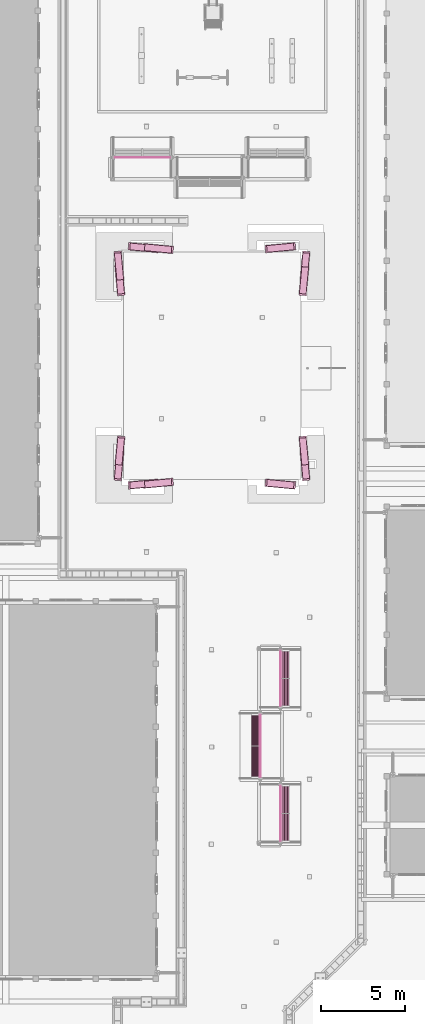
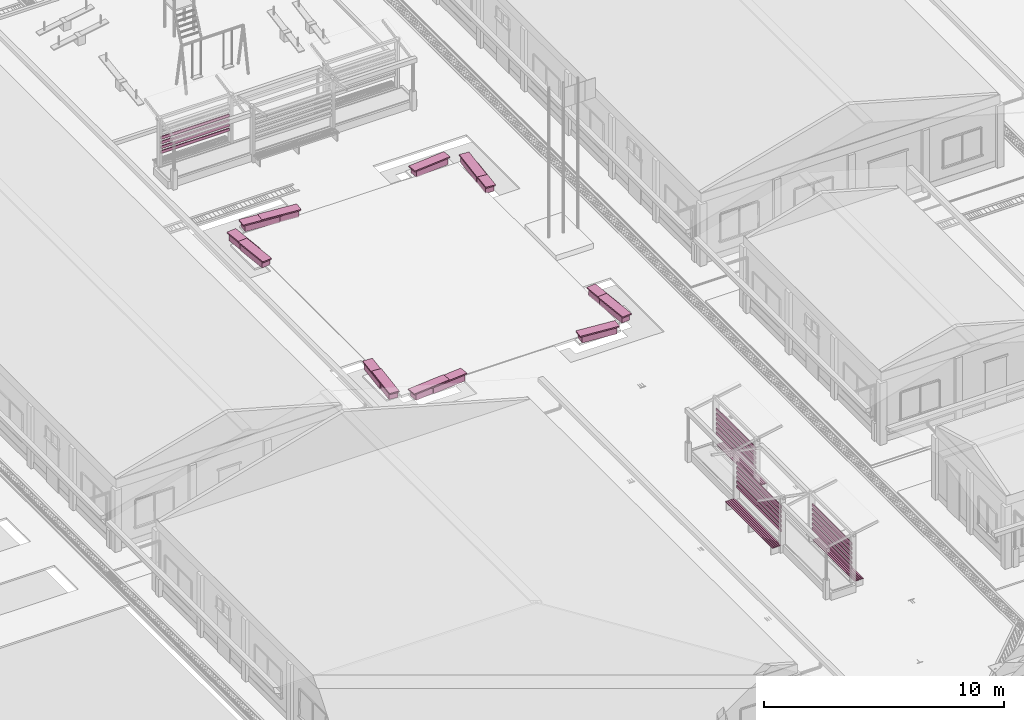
# One storey, part 135 of 151: 65 furnishings.
"""IFC2X3 building model written with IfcOpenShell, lengths in metres."""

from ifc_helpers import new_model, si_unit, origin, origin_with_axes, place, context, subcontext, project, spatial, faceted_brep, element, save


model = new_model("IFC2X3")

# Units and contexts
model_context = context("Model", 3, precision=1e-05, world=origin_with_axes())
body_context = subcontext(model_context, "Body", "Model", "MODEL_VIEW")
ifc_project = project(units=[si_unit("LENGTHUNIT", "METRE"), si_unit("AREAUNIT", "SQUARE_METRE"), si_unit("VOLUMEUNIT", "CUBIC_METRE"), si_unit("PLANEANGLEUNIT", "RADIAN")], contexts=[model_context])

# Site, building, storey
site_placement = place(None, origin_with_axes())
site = spatial("IfcSite", under=ifc_project, at=site_placement, Name="Predio Los Mangos - Morales, San Martín", CompositionType="ELEMENT")
building_placement = place(site_placement, origin())
building = spatial("IfcBuilding", under=site, at=building_placement, Name="Hogar de Refugio Temporal", CompositionType="ELEMENT")
storey_placement = place(building_placement, origin())
storey = spatial("IfcBuildingStorey", under=building, at=storey_placement, Name="NIVEL 1 (NPT +0.00)", CompositionType="ELEMENT", Elevation=0.0)

# Furnishings
furnishing_1_placement = place(storey_placement, origin())
element("IfcFurnishingElement", 1, at=furnishing_1_placement, inside=storey, Name="banca_base", ObjectType="Mobiliario exterior / juegos", context=body_context, shape_type="Brep", body=[
    faceted_brep([(29.1456, 69.3176, 0.07), (29.5438, 69.3553, 0.07), (29.6944, 67.7624, 0.07), (29.2962, 67.7247, 0.07), (29.1456, 69.3176, 0.37), (29.2962, 67.7247, 0.37), (29.6944, 67.7624, 0.37), (29.5438, 69.3553, 0.37)], [[[0, 1, 2, 3]], [[4, 5, 6, 7]], [[0, 3, 5, 4]], [[3, 2, 6, 5]], [[2, 1, 7, 6]], [[1, 0, 4, 7]]]),
])
furnishing_2_placement = place(storey_placement, origin())
element("IfcFurnishingElement", 2, at=furnishing_2_placement, inside=storey, Name="banca_asiento", ObjectType="Mobiliario exterior / juegos", context=body_context, shape_type="Brep", body=[
    faceted_brep([(29.1113, 69.4148, 0.39), (29.5593, 69.4572, 0.39), (29.7287, 67.6652, 0.39), (29.2807, 67.6228, 0.39), (29.1113, 69.4148, 0.45), (29.2807, 67.6228, 0.45), (29.7287, 67.6652, 0.45), (29.5593, 69.4572, 0.45)], [[[0, 1, 2, 3]], [[4, 5, 6, 7]], [[0, 3, 5, 4]], [[3, 2, 6, 5]], [[2, 1, 7, 6]], [[1, 0, 4, 7]]]),
])
furnishing_3_placement = place(storey_placement, origin())
element("IfcFurnishingElement", 3, at=furnishing_3_placement, inside=storey, Name="banca_base", ObjectType="Mobiliario exterior / juegos", context=body_context, shape_type="Brep", body=[
    faceted_brep([(31.6853, 69.7738, 0.07), (31.6476, 69.3756, 0.07), (30.0547, 69.5262, 0.07), (30.0924, 69.9244, 0.07), (31.6853, 69.7738, 0.37), (30.0924, 69.9244, 0.37), (30.0547, 69.5262, 0.37), (31.6476, 69.3756, 0.37)], [[[0, 1, 2, 3]], [[4, 5, 6, 7]], [[0, 3, 5, 4]], [[3, 2, 6, 5]], [[2, 1, 7, 6]], [[1, 0, 4, 7]]]),
])
furnishing_4_placement = place(storey_placement, origin())
element("IfcFurnishingElement", 4, at=furnishing_4_placement, inside=storey, Name="banca_asiento", ObjectType="Mobiliario exterior / juegos", context=body_context, shape_type="Brep", body=[
    faceted_brep([(31.7872, 69.7893, 0.39), (31.7448, 69.3413, 0.39), (29.9528, 69.5107, 0.39), (29.9952, 69.9587, 0.39), (31.7872, 69.7893, 0.45), (29.9952, 69.9587, 0.45), (29.9528, 69.5107, 0.45), (31.7448, 69.3413, 0.45)], [[[0, 1, 2, 3]], [[4, 5, 6, 7]], [[0, 3, 5, 4]], [[3, 2, 6, 5]], [[2, 1, 7, 6]], [[1, 0, 4, 7]]]),
])
furnishing_5_placement = place(storey_placement, origin())
element("IfcFurnishingElement", 5, at=furnishing_5_placement, inside=storey, Name="banca_base", ObjectType="Mobiliario exterior / juegos", context=body_context, shape_type="Brep", body=[
    faceted_brep([(40.5738, 67.7247, 0.07), (40.1756, 67.7624, 0.07), (40.3262, 69.3553, 0.07), (40.7244, 69.3176, 0.07), (40.5738, 67.7247, 0.37), (40.7244, 69.3176, 0.37), (40.3262, 69.3553, 0.37), (40.1756, 67.7624, 0.37)], [[[0, 1, 2, 3]], [[4, 5, 6, 7]], [[0, 3, 5, 4]], [[3, 2, 6, 5]], [[2, 1, 7, 6]], [[1, 0, 4, 7]]]),
])
furnishing_6_placement = place(storey_placement, origin())
element("IfcFurnishingElement", 6, at=furnishing_6_placement, inside=storey, Name="banca_asiento", ObjectType="Mobiliario exterior / juegos", context=body_context, shape_type="Brep", body=[
    faceted_brep([(40.5893, 67.6228, 0.39), (40.1413, 67.6652, 0.39), (40.3107, 69.4572, 0.39), (40.7587, 69.4148, 0.39), (40.5893, 67.6228, 0.45), (40.7587, 69.4148, 0.45), (40.3107, 69.4572, 0.45), (40.1413, 67.6652, 0.45)], [[[0, 1, 2, 3]], [[4, 5, 6, 7]], [[0, 3, 5, 4]], [[3, 2, 6, 5]], [[2, 1, 7, 6]], [[1, 0, 4, 7]]]),
])
furnishing_7_placement = place(storey_placement, origin())
element("IfcFurnishingElement", 7, at=furnishing_7_placement, inside=storey, Name="banca_base", ObjectType="Mobiliario exterior / juegos", context=body_context, shape_type="Brep", body=[
    faceted_brep([(39.7676, 69.9244, 0.07), (39.8053, 69.5262, 0.07), (38.2124, 69.3756, 0.07), (38.1747, 69.7738, 0.07), (39.7676, 69.9244, 0.37), (38.1747, 69.7738, 0.37), (38.2124, 69.3756, 0.37), (39.8053, 69.5262, 0.37)], [[[0, 1, 2, 3]], [[4, 5, 6, 7]], [[0, 3, 5, 4]], [[3, 2, 6, 5]], [[2, 1, 7, 6]], [[1, 0, 4, 7]]]),
])
furnishing_8_placement = place(storey_placement, origin())
element("IfcFurnishingElement", 8, at=furnishing_8_placement, inside=storey, Name="banca_asiento", ObjectType="Mobiliario exterior / juegos", context=body_context, shape_type="Brep", body=[
    faceted_brep([(39.8648, 69.9587, 0.39), (39.9072, 69.5107, 0.39), (38.1152, 69.3413, 0.39), (38.0728, 69.7893, 0.39), (39.8648, 69.9587, 0.45), (38.0728, 69.7893, 0.45), (38.1152, 69.3413, 0.45), (39.9072, 69.5107, 0.45)], [[[0, 1, 2, 3]], [[4, 5, 6, 7]], [[0, 3, 5, 4]], [[3, 2, 6, 5]], [[2, 1, 7, 6]], [[1, 0, 4, 7]]]),
])
furnishing_9_placement = place(storey_placement, origin())
element("IfcFurnishingElement", 9, at=furnishing_9_placement, inside=storey, Name="banca_base", ObjectType="Mobiliario exterior / juegos", context=body_context, shape_type="Brep", body=[
    faceted_brep([(29.2962, 57.5553, 0.07), (29.6944, 57.5176, 0.07), (29.5438, 55.9247, 0.07), (29.1456, 55.9624, 0.07), (29.2962, 57.5553, 0.37), (29.1456, 55.9624, 0.37), (29.5438, 55.9247, 0.37), (29.6944, 57.5176, 0.37)], [[[0, 1, 2, 3]], [[4, 5, 6, 7]], [[0, 3, 5, 4]], [[3, 2, 6, 5]], [[2, 1, 7, 6]], [[1, 0, 4, 7]]]),
])
furnishing_10_placement = place(storey_placement, origin())
element("IfcFurnishingElement", 10, at=furnishing_10_placement, inside=storey, Name="banca_asiento", ObjectType="Mobiliario exterior / juegos", context=body_context, shape_type="Brep", body=[
    faceted_brep([(29.2807, 57.6572, 0.39), (29.7287, 57.6148, 0.39), (29.5593, 55.8228, 0.39), (29.1113, 55.8652, 0.39), (29.2807, 57.6572, 0.45), (29.1113, 55.8652, 0.45), (29.5593, 55.8228, 0.45), (29.7287, 57.6148, 0.45)], [[[0, 1, 2, 3]], [[4, 5, 6, 7]], [[0, 3, 5, 4]], [[3, 2, 6, 5]], [[2, 1, 7, 6]], [[1, 0, 4, 7]]]),
])
furnishing_11_placement = place(storey_placement, origin())
element("IfcFurnishingElement", 11, at=furnishing_11_placement, inside=storey, Name="banca_base", ObjectType="Mobiliario exterior / juegos", context=body_context, shape_type="Brep", body=[
    faceted_brep([(30.0924, 55.3556, 0.07), (30.0547, 55.7538, 0.07), (31.6476, 55.9044, 0.07), (31.6853, 55.5062, 0.07), (30.0924, 55.3556, 0.37), (31.6853, 55.5062, 0.37), (31.6476, 55.9044, 0.37), (30.0547, 55.7538, 0.37)], [[[0, 1, 2, 3]], [[4, 5, 6, 7]], [[0, 3, 5, 4]], [[3, 2, 6, 5]], [[2, 1, 7, 6]], [[1, 0, 4, 7]]]),
])
furnishing_12_placement = place(storey_placement, origin())
element("IfcFurnishingElement", 12, at=furnishing_12_placement, inside=storey, Name="banca_asiento", ObjectType="Mobiliario exterior / juegos", context=body_context, shape_type="Brep", body=[
    faceted_brep([(29.9952, 55.3213, 0.39), (29.9528, 55.7693, 0.39), (31.7448, 55.9387, 0.39), (31.7872, 55.4907, 0.39), (29.9952, 55.3213, 0.45), (31.7872, 55.4907, 0.45), (31.7448, 55.9387, 0.45), (29.9528, 55.7693, 0.45)], [[[0, 1, 2, 3]], [[4, 5, 6, 7]], [[0, 3, 5, 4]], [[3, 2, 6, 5]], [[2, 1, 7, 6]], [[1, 0, 4, 7]]]),
])
furnishing_13_placement = place(storey_placement, origin())
element("IfcFurnishingElement", 13, at=furnishing_13_placement, inside=storey, Name="banca_base", ObjectType="Mobiliario exterior / juegos", context=body_context, shape_type="Brep", body=[
    faceted_brep([(40.7244, 55.9624, 0.07), (40.3262, 55.9247, 0.07), (40.1756, 57.5176, 0.07), (40.5738, 57.5553, 0.07), (40.7244, 55.9624, 0.37), (40.5738, 57.5553, 0.37), (40.1756, 57.5176, 0.37), (40.3262, 55.9247, 0.37)], [[[0, 1, 2, 3]], [[4, 5, 6, 7]], [[0, 3, 5, 4]], [[3, 2, 6, 5]], [[2, 1, 7, 6]], [[1, 0, 4, 7]]]),
])
furnishing_14_placement = place(storey_placement, origin())
element("IfcFurnishingElement", 14, at=furnishing_14_placement, inside=storey, Name="banca_asiento", ObjectType="Mobiliario exterior / juegos", context=body_context, shape_type="Brep", body=[
    faceted_brep([(40.7587, 55.8652, 0.39), (40.3107, 55.8228, 0.39), (40.1413, 57.6148, 0.39), (40.5893, 57.6572, 0.39), (40.7587, 55.8652, 0.45), (40.5893, 57.6572, 0.45), (40.1413, 57.6148, 0.45), (40.3107, 55.8228, 0.45)], [[[0, 1, 2, 3]], [[4, 5, 6, 7]], [[0, 3, 5, 4]], [[3, 2, 6, 5]], [[2, 1, 7, 6]], [[1, 0, 4, 7]]]),
])
furnishing_15_placement = place(storey_placement, origin())
element("IfcFurnishingElement", 15, at=furnishing_15_placement, inside=storey, Name="banca_base", ObjectType="Mobiliario exterior / juegos", context=body_context, shape_type="Brep", body=[
    faceted_brep([(38.1747, 55.5062, 0.07), (38.2124, 55.9044, 0.07), (39.8053, 55.7538, 0.07), (39.7676, 55.3556, 0.07), (38.1747, 55.5062, 0.37), (39.7676, 55.3556, 0.37), (39.8053, 55.7538, 0.37), (38.2124, 55.9044, 0.37)], [[[0, 1, 2, 3]], [[4, 5, 6, 7]], [[0, 3, 5, 4]], [[3, 2, 6, 5]], [[2, 1, 7, 6]], [[1, 0, 4, 7]]]),
])
furnishing_16_placement = place(storey_placement, origin())
element("IfcFurnishingElement", 16, at=furnishing_16_placement, inside=storey, Name="banca_asiento", ObjectType="Mobiliario exterior / juegos", context=body_context, shape_type="Brep", body=[
    faceted_brep([(38.0728, 55.4907, 0.39), (38.1152, 55.9387, 0.39), (39.9072, 55.7693, 0.39), (39.8648, 55.3213, 0.39), (38.0728, 55.4907, 0.45), (39.8648, 55.3213, 0.45), (39.9072, 55.7693, 0.45), (38.1152, 55.9387, 0.45)], [[[0, 1, 2, 3]], [[4, 5, 6, 7]], [[0, 3, 5, 4]], [[3, 2, 6, 5]], [[2, 1, 7, 6]], [[1, 0, 4, 7]]]),
])
furnishing_17_placement = place(storey_placement, origin())
element("IfcFurnishingElement", 17, at=furnishing_17_placement, inside=storey, Name="banca_base", ObjectType="Mobiliario exterior / juegos", context=body_context, shape_type="Brep", body=[
    faceted_brep([(29.1956, 68.4876, 0.07), (29.5938, 68.5253, 0.07), (29.7444, 66.9324, 0.07), (29.3462, 66.8947, 0.07), (29.1956, 68.4876, 0.37), (29.3462, 66.8947, 0.37), (29.7444, 66.9324, 0.37), (29.5938, 68.5253, 0.37)], [[[0, 1, 2, 3]], [[4, 5, 6, 7]], [[0, 3, 5, 4]], [[3, 2, 6, 5]], [[2, 1, 7, 6]], [[1, 0, 4, 7]]]),
])
furnishing_18_placement = place(storey_placement, origin())
element("IfcFurnishingElement", 18, at=furnishing_18_placement, inside=storey, Name="banca_asiento", ObjectType="Mobiliario exterior / juegos", context=body_context, shape_type="Brep", body=[
    faceted_brep([(29.1613, 68.5848, 0.39), (29.6093, 68.6272, 0.39), (29.7787, 66.8352, 0.39), (29.3307, 66.7928, 0.39), (29.1613, 68.5848, 0.45), (29.3307, 66.7928, 0.45), (29.7787, 66.8352, 0.45), (29.6093, 68.6272, 0.45)], [[[0, 1, 2, 3]], [[4, 5, 6, 7]], [[0, 3, 5, 4]], [[3, 2, 6, 5]], [[2, 1, 7, 6]], [[1, 0, 4, 7]]]),
])
furnishing_19_placement = place(storey_placement, origin())
element("IfcFurnishingElement", 19, at=furnishing_19_placement, inside=storey, Name="banca_base", ObjectType="Mobiliario exterior / juegos", context=body_context, shape_type="Brep", body=[
    faceted_brep([(32.5553, 69.7238, 0.07), (32.5176, 69.3256, 0.07), (30.9247, 69.4762, 0.07), (30.9624, 69.8744, 0.07), (32.5553, 69.7238, 0.37), (30.9624, 69.8744, 0.37), (30.9247, 69.4762, 0.37), (32.5176, 69.3256, 0.37)], [[[0, 1, 2, 3]], [[4, 5, 6, 7]], [[0, 3, 5, 4]], [[3, 2, 6, 5]], [[2, 1, 7, 6]], [[1, 0, 4, 7]]]),
])
furnishing_20_placement = place(storey_placement, origin())
element("IfcFurnishingElement", 20, at=furnishing_20_placement, inside=storey, Name="banca_asiento", ObjectType="Mobiliario exterior / juegos", context=body_context, shape_type="Brep", body=[
    faceted_brep([(32.6572, 69.7393, 0.39), (32.6148, 69.2913, 0.39), (30.8228, 69.4607, 0.39), (30.8652, 69.9087, 0.39), (32.6572, 69.7393, 0.45), (30.8652, 69.9087, 0.45), (30.8228, 69.4607, 0.45), (32.6148, 69.2913, 0.45)], [[[0, 1, 2, 3]], [[4, 5, 6, 7]], [[0, 3, 5, 4]], [[3, 2, 6, 5]], [[2, 1, 7, 6]], [[1, 0, 4, 7]]]),
])
furnishing_21_placement = place(storey_placement, origin())
element("IfcFurnishingElement", 21, at=furnishing_21_placement, inside=storey, Name="banca_base", ObjectType="Mobiliario exterior / juegos", context=body_context, shape_type="Brep", body=[
    faceted_brep([(40.5138, 66.8947, 0.07), (40.1156, 66.9324, 0.07), (40.2662, 68.5253, 0.07), (40.6644, 68.4876, 0.07), (40.5138, 66.8947, 0.37), (40.6644, 68.4876, 0.37), (40.2662, 68.5253, 0.37), (40.1156, 66.9324, 0.37)], [[[0, 1, 2, 3]], [[4, 5, 6, 7]], [[0, 3, 5, 4]], [[3, 2, 6, 5]], [[2, 1, 7, 6]], [[1, 0, 4, 7]]]),
])
furnishing_22_placement = place(storey_placement, origin())
element("IfcFurnishingElement", 22, at=furnishing_22_placement, inside=storey, Name="banca_asiento", ObjectType="Mobiliario exterior / juegos", context=body_context, shape_type="Brep", body=[
    faceted_brep([(40.5293, 66.7928, 0.39), (40.0813, 66.8352, 0.39), (40.2507, 68.6272, 0.39), (40.6987, 68.5848, 0.39), (40.5293, 66.7928, 0.45), (40.6987, 68.5848, 0.45), (40.2507, 68.6272, 0.45), (40.0813, 66.8352, 0.45)], [[[0, 1, 2, 3]], [[4, 5, 6, 7]], [[0, 3, 5, 4]], [[3, 2, 6, 5]], [[2, 1, 7, 6]], [[1, 0, 4, 7]]]),
])
furnishing_23_placement = place(storey_placement, origin())
element("IfcFurnishingElement", 23, at=furnishing_23_placement, inside=storey, Name="banca_base", ObjectType="Mobiliario exterior / juegos", context=body_context, shape_type="Brep", body=[
    faceted_brep([(29.3462, 58.3853, 0.07), (29.7444, 58.3476, 0.07), (29.5938, 56.7547, 0.07), (29.1956, 56.7924, 0.07), (29.3462, 58.3853, 0.37), (29.1956, 56.7924, 0.37), (29.5938, 56.7547, 0.37), (29.7444, 58.3476, 0.37)], [[[0, 1, 2, 3]], [[4, 5, 6, 7]], [[0, 3, 5, 4]], [[3, 2, 6, 5]], [[2, 1, 7, 6]], [[1, 0, 4, 7]]]),
])
furnishing_24_placement = place(storey_placement, origin())
element("IfcFurnishingElement", 24, at=furnishing_24_placement, inside=storey, Name="banca_asiento", ObjectType="Mobiliario exterior / juegos", context=body_context, shape_type="Brep", body=[
    faceted_brep([(29.3307, 58.4872, 0.39), (29.7787, 58.4448, 0.39), (29.6093, 56.6528, 0.39), (29.1613, 56.6952, 0.39), (29.3307, 58.4872, 0.45), (29.1613, 56.6952, 0.45), (29.6093, 56.6528, 0.45), (29.7787, 58.4448, 0.45)], [[[0, 1, 2, 3]], [[4, 5, 6, 7]], [[0, 3, 5, 4]], [[3, 2, 6, 5]], [[2, 1, 7, 6]], [[1, 0, 4, 7]]]),
])
furnishing_25_placement = place(storey_placement, origin())
element("IfcFurnishingElement", 25, at=furnishing_25_placement, inside=storey, Name="banca_base", ObjectType="Mobiliario exterior / juegos", context=body_context, shape_type="Brep", body=[
    faceted_brep([(30.9624, 55.4056, 0.07), (30.9247, 55.8038, 0.07), (32.5176, 55.9544, 0.07), (32.5553, 55.5562, 0.07), (30.9624, 55.4056, 0.37), (32.5553, 55.5562, 0.37), (32.5176, 55.9544, 0.37), (30.9247, 55.8038, 0.37)], [[[0, 1, 2, 3]], [[4, 5, 6, 7]], [[0, 3, 5, 4]], [[3, 2, 6, 5]], [[2, 1, 7, 6]], [[1, 0, 4, 7]]]),
])
furnishing_26_placement = place(storey_placement, origin())
element("IfcFurnishingElement", 26, at=furnishing_26_placement, inside=storey, Name="banca_asiento", ObjectType="Mobiliario exterior / juegos", context=body_context, shape_type="Brep", body=[
    faceted_brep([(30.8652, 55.3713, 0.39), (30.8228, 55.8193, 0.39), (32.6148, 55.9887, 0.39), (32.6572, 55.5407, 0.39), (30.8652, 55.3713, 0.45), (32.6572, 55.5407, 0.45), (32.6148, 55.9887, 0.45), (30.8228, 55.8193, 0.45)], [[[0, 1, 2, 3]], [[4, 5, 6, 7]], [[0, 3, 5, 4]], [[3, 2, 6, 5]], [[2, 1, 7, 6]], [[1, 0, 4, 7]]]),
])
furnishing_27_placement = place(storey_placement, origin())
element("IfcFurnishingElement", 27, at=furnishing_27_placement, inside=storey, Name="banca_base", ObjectType="Mobiliario exterior / juegos", context=body_context, shape_type="Brep", body=[
    faceted_brep([(40.6644, 56.7924, 0.07), (40.2662, 56.7547, 0.07), (40.1156, 58.3476, 0.07), (40.5138, 58.3853, 0.07), (40.6644, 56.7924, 0.37), (40.5138, 58.3853, 0.37), (40.1156, 58.3476, 0.37), (40.2662, 56.7547, 0.37)], [[[0, 1, 2, 3]], [[4, 5, 6, 7]], [[0, 3, 5, 4]], [[3, 2, 6, 5]], [[2, 1, 7, 6]], [[1, 0, 4, 7]]]),
])
furnishing_28_placement = place(storey_placement, origin())
element("IfcFurnishingElement", 28, at=furnishing_28_placement, inside=storey, Name="banca_asiento", ObjectType="Mobiliario exterior / juegos", context=body_context, shape_type="Brep", body=[
    faceted_brep([(40.6987, 56.6952, 0.39), (40.2507, 56.6528, 0.39), (40.0813, 58.4448, 0.39), (40.5293, 58.4872, 0.39), (40.6987, 56.6952, 0.45), (40.5293, 58.4872, 0.45), (40.0813, 58.4448, 0.45), (40.2507, 56.6528, 0.45)], [[[0, 1, 2, 3]], [[4, 5, 6, 7]], [[0, 3, 5, 4]], [[3, 2, 6, 5]], [[2, 1, 7, 6]], [[1, 0, 4, 7]]]),
])
furnishing_29_placement = place(storey_placement, origin())
element("IfcFurnishingElement", 29, at=furnishing_29_placement, inside=storey, Name="oc01_celosia", ObjectType="Mobiliario exterior / juegos", context=body_context, shape_type="Brep", body=[
    faceted_brep([(39.02, 34.455, 1.05), (38.98, 34.455, 1.05), (38.98, 37.745, 1.05), (39.02, 37.745, 1.05), (39.02, 34.455, 1.19), (39.02, 37.745, 1.19), (38.98, 37.745, 1.19), (38.98, 34.455, 1.19)], [[[0, 1, 2, 3]], [[4, 5, 6, 7]], [[0, 3, 5, 4]], [[3, 2, 6, 5]], [[2, 1, 7, 6]], [[1, 0, 4, 7]]]),
])
furnishing_30_placement = place(storey_placement, origin())
element("IfcFurnishingElement", 30, at=furnishing_30_placement, inside=storey, Name="oc01_celosia", ObjectType="Mobiliario exterior / juegos", context=body_context, shape_type="Brep", body=[
    faceted_brep([(39.02, 34.455, 1.29), (38.98, 34.455, 1.29), (38.98, 37.745, 1.29), (39.02, 37.745, 1.29), (39.02, 34.455, 1.43), (39.02, 37.745, 1.43), (38.98, 37.745, 1.43), (38.98, 34.455, 1.43)], [[[0, 1, 2, 3]], [[4, 5, 6, 7]], [[0, 3, 5, 4]], [[3, 2, 6, 5]], [[2, 1, 7, 6]], [[1, 0, 4, 7]]]),
])
furnishing_31_placement = place(storey_placement, origin())
element("IfcFurnishingElement", 31, at=furnishing_31_placement, inside=storey, Name="oc01_celosia", ObjectType="Mobiliario exterior / juegos", context=body_context, shape_type="Brep", body=[
    faceted_brep([(39.02, 34.455, 1.53), (38.98, 34.455, 1.53), (38.98, 37.745, 1.53), (39.02, 37.745, 1.53), (39.02, 34.455, 1.67), (39.02, 37.745, 1.67), (38.98, 37.745, 1.67), (38.98, 34.455, 1.67)], [[[0, 1, 2, 3]], [[4, 5, 6, 7]], [[0, 3, 5, 4]], [[3, 2, 6, 5]], [[2, 1, 7, 6]], [[1, 0, 4, 7]]]),
])
furnishing_32_placement = place(storey_placement, origin())
element("IfcFurnishingElement", 32, at=furnishing_32_placement, inside=storey, Name="oc01_celosia", ObjectType="Mobiliario exterior / juegos", context=body_context, shape_type="Brep", body=[
    faceted_brep([(39.02, 34.455, 1.77), (38.98, 34.455, 1.77), (38.98, 37.745, 1.77), (39.02, 37.745, 1.77), (39.02, 34.455, 1.91), (39.02, 37.745, 1.91), (38.98, 37.745, 1.91), (38.98, 34.455, 1.91)], [[[0, 1, 2, 3]], [[4, 5, 6, 7]], [[0, 3, 5, 4]], [[3, 2, 6, 5]], [[2, 1, 7, 6]], [[1, 0, 4, 7]]]),
])
furnishing_33_placement = place(storey_placement, origin())
element("IfcFurnishingElement", 33, at=furnishing_33_placement, inside=storey, Name="oc01_celosia", ObjectType="Mobiliario exterior / juegos", context=body_context, shape_type="Brep", body=[
    faceted_brep([(39.02, 34.455, 2.01), (38.98, 34.455, 2.01), (38.98, 37.745, 2.01), (39.02, 37.745, 2.01), (39.02, 34.455, 2.15), (39.02, 37.745, 2.15), (38.98, 37.745, 2.15), (38.98, 34.455, 2.15)], [[[0, 1, 2, 3]], [[4, 5, 6, 7]], [[0, 3, 5, 4]], [[3, 2, 6, 5]], [[2, 1, 7, 6]], [[1, 0, 4, 7]]]),
])
furnishing_34_placement = place(storey_placement, origin())
element("IfcFurnishingElement", 34, at=furnishing_34_placement, inside=storey, Name="oc01_celosia", ObjectType="Mobiliario exterior / juegos", context=body_context, shape_type="Brep", body=[
    faceted_brep([(39.02, 34.455, 2.25), (38.98, 34.455, 2.25), (38.98, 37.745, 2.25), (39.02, 37.745, 2.25), (39.02, 34.455, 2.39), (39.02, 37.745, 2.39), (38.98, 37.745, 2.39), (38.98, 34.455, 2.39)], [[[0, 1, 2, 3]], [[4, 5, 6, 7]], [[0, 3, 5, 4]], [[3, 2, 6, 5]], [[2, 1, 7, 6]], [[1, 0, 4, 7]]]),
])
furnishing_35_placement = place(storey_placement, origin())
element("IfcFurnishingElement", 35, at=furnishing_35_placement, inside=storey, Name="oc01_asiento", ObjectType="Mobiliario exterior / juegos", context=body_context, shape_type="Brep", body=[
    faceted_brep([(39.135, 34.355, 0.44), (39.065, 34.355, 0.44), (39.065, 37.845, 0.44), (39.135, 37.845, 0.44), (39.135, 34.355, 0.48), (39.135, 37.845, 0.48), (39.065, 37.845, 0.48), (39.065, 34.355, 0.48)], [[[0, 1, 2, 3]], [[4, 5, 6, 7]], [[0, 3, 5, 4]], [[3, 2, 6, 5]], [[2, 1, 7, 6]], [[1, 0, 4, 7]]]),
])
furnishing_36_placement = place(storey_placement, origin())
element("IfcFurnishingElement", 36, at=furnishing_36_placement, inside=storey, Name="oc01_asiento", ObjectType="Mobiliario exterior / juegos", context=body_context, shape_type="Brep", body=[
    faceted_brep([(39.225, 34.355, 0.44), (39.155, 34.355, 0.44), (39.155, 37.845, 0.44), (39.225, 37.845, 0.44), (39.225, 34.355, 0.48), (39.225, 37.845, 0.48), (39.155, 37.845, 0.48), (39.155, 34.355, 0.48)], [[[0, 1, 2, 3]], [[4, 5, 6, 7]], [[0, 3, 5, 4]], [[3, 2, 6, 5]], [[2, 1, 7, 6]], [[1, 0, 4, 7]]]),
])
furnishing_37_placement = place(storey_placement, origin())
element("IfcFurnishingElement", 37, at=furnishing_37_placement, inside=storey, Name="oc01_asiento", ObjectType="Mobiliario exterior / juegos", context=body_context, shape_type="Brep", body=[
    faceted_brep([(39.315, 34.355, 0.44), (39.245, 34.355, 0.44), (39.245, 37.845, 0.44), (39.315, 37.845, 0.44), (39.315, 34.355, 0.48), (39.315, 37.845, 0.48), (39.245, 37.845, 0.48), (39.245, 34.355, 0.48)], [[[0, 1, 2, 3]], [[4, 5, 6, 7]], [[0, 3, 5, 4]], [[3, 2, 6, 5]], [[2, 1, 7, 6]], [[1, 0, 4, 7]]]),
])
furnishing_38_placement = place(storey_placement, origin())
element("IfcFurnishingElement", 38, at=furnishing_38_placement, inside=storey, Name="oc01_asiento", ObjectType="Mobiliario exterior / juegos", context=body_context, shape_type="Brep", body=[
    faceted_brep([(39.405, 34.355, 0.44), (39.335, 34.355, 0.44), (39.335, 37.845, 0.44), (39.405, 37.845, 0.44), (39.405, 34.355, 0.48), (39.405, 37.845, 0.48), (39.335, 37.845, 0.48), (39.335, 34.355, 0.48)], [[[0, 1, 2, 3]], [[4, 5, 6, 7]], [[0, 3, 5, 4]], [[3, 2, 6, 5]], [[2, 1, 7, 6]], [[1, 0, 4, 7]]]),
])
furnishing_39_placement = place(storey_placement, origin())
element("IfcFurnishingElement", 39, at=furnishing_39_placement, inside=storey, Name="oc01_asiento", ObjectType="Mobiliario exterior / juegos", context=body_context, shape_type="Brep", body=[
    faceted_brep([(39.495, 34.355, 0.44), (39.425, 34.355, 0.44), (39.425, 37.845, 0.44), (39.495, 37.845, 0.44), (39.495, 34.355, 0.48), (39.495, 37.845, 0.48), (39.425, 37.845, 0.48), (39.425, 34.355, 0.48)], [[[0, 1, 2, 3]], [[4, 5, 6, 7]], [[0, 3, 5, 4]], [[3, 2, 6, 5]], [[2, 1, 7, 6]], [[1, 0, 4, 7]]]),
])
furnishing_40_placement = place(storey_placement, origin())
element("IfcFurnishingElement", 40, at=furnishing_40_placement, inside=storey, Name="oc01_celosia", ObjectType="Mobiliario exterior / juegos", context=body_context, shape_type="Brep", body=[
    faceted_brep([(37.82, 38.245, 1.05), (37.78, 38.245, 1.05), (37.78, 41.955, 1.05), (37.82, 41.955, 1.05), (37.82, 38.245, 1.19), (37.82, 41.955, 1.19), (37.78, 41.955, 1.19), (37.78, 38.245, 1.19)], [[[0, 1, 2, 3]], [[4, 5, 6, 7]], [[0, 3, 5, 4]], [[3, 2, 6, 5]], [[2, 1, 7, 6]], [[1, 0, 4, 7]]]),
])
furnishing_41_placement = place(storey_placement, origin())
element("IfcFurnishingElement", 41, at=furnishing_41_placement, inside=storey, Name="oc01_celosia", ObjectType="Mobiliario exterior / juegos", context=body_context, shape_type="Brep", body=[
    faceted_brep([(37.82, 38.245, 1.29), (37.78, 38.245, 1.29), (37.78, 41.955, 1.29), (37.82, 41.955, 1.29), (37.82, 38.245, 1.43), (37.82, 41.955, 1.43), (37.78, 41.955, 1.43), (37.78, 38.245, 1.43)], [[[0, 1, 2, 3]], [[4, 5, 6, 7]], [[0, 3, 5, 4]], [[3, 2, 6, 5]], [[2, 1, 7, 6]], [[1, 0, 4, 7]]]),
])
furnishing_42_placement = place(storey_placement, origin())
element("IfcFurnishingElement", 42, at=furnishing_42_placement, inside=storey, Name="oc01_celosia", ObjectType="Mobiliario exterior / juegos", context=body_context, shape_type="Brep", body=[
    faceted_brep([(37.82, 38.245, 1.53), (37.78, 38.245, 1.53), (37.78, 41.955, 1.53), (37.82, 41.955, 1.53), (37.82, 38.245, 1.67), (37.82, 41.955, 1.67), (37.78, 41.955, 1.67), (37.78, 38.245, 1.67)], [[[0, 1, 2, 3]], [[4, 5, 6, 7]], [[0, 3, 5, 4]], [[3, 2, 6, 5]], [[2, 1, 7, 6]], [[1, 0, 4, 7]]]),
])
furnishing_43_placement = place(storey_placement, origin())
element("IfcFurnishingElement", 43, at=furnishing_43_placement, inside=storey, Name="oc01_celosia", ObjectType="Mobiliario exterior / juegos", context=body_context, shape_type="Brep", body=[
    faceted_brep([(37.82, 38.245, 1.77), (37.78, 38.245, 1.77), (37.78, 41.955, 1.77), (37.82, 41.955, 1.77), (37.82, 38.245, 1.91), (37.82, 41.955, 1.91), (37.78, 41.955, 1.91), (37.78, 38.245, 1.91)], [[[0, 1, 2, 3]], [[4, 5, 6, 7]], [[0, 3, 5, 4]], [[3, 2, 6, 5]], [[2, 1, 7, 6]], [[1, 0, 4, 7]]]),
])
furnishing_44_placement = place(storey_placement, origin())
element("IfcFurnishingElement", 44, at=furnishing_44_placement, inside=storey, Name="oc01_celosia", ObjectType="Mobiliario exterior / juegos", context=body_context, shape_type="Brep", body=[
    faceted_brep([(37.82, 38.245, 2.01), (37.78, 38.245, 2.01), (37.78, 41.955, 2.01), (37.82, 41.955, 2.01), (37.82, 38.245, 2.15), (37.82, 41.955, 2.15), (37.78, 41.955, 2.15), (37.78, 38.245, 2.15)], [[[0, 1, 2, 3]], [[4, 5, 6, 7]], [[0, 3, 5, 4]], [[3, 2, 6, 5]], [[2, 1, 7, 6]], [[1, 0, 4, 7]]]),
])
furnishing_45_placement = place(storey_placement, origin())
element("IfcFurnishingElement", 45, at=furnishing_45_placement, inside=storey, Name="oc01_celosia", ObjectType="Mobiliario exterior / juegos", context=body_context, shape_type="Brep", body=[
    faceted_brep([(37.82, 38.245, 2.25), (37.78, 38.245, 2.25), (37.78, 41.955, 2.25), (37.82, 41.955, 2.25), (37.82, 38.245, 2.39), (37.82, 41.955, 2.39), (37.78, 41.955, 2.39), (37.78, 38.245, 2.39)], [[[0, 1, 2, 3]], [[4, 5, 6, 7]], [[0, 3, 5, 4]], [[3, 2, 6, 5]], [[2, 1, 7, 6]], [[1, 0, 4, 7]]]),
])
furnishing_46_placement = place(storey_placement, origin())
element("IfcFurnishingElement", 46, at=furnishing_46_placement, inside=storey, Name="oc01_asiento", ObjectType="Mobiliario exterior / juegos", context=body_context, shape_type="Brep", body=[
    faceted_brep([(37.735, 38.145, 0.44), (37.665, 38.145, 0.44), (37.665, 42.055, 0.44), (37.735, 42.055, 0.44), (37.735, 38.145, 0.48), (37.735, 42.055, 0.48), (37.665, 42.055, 0.48), (37.665, 38.145, 0.48)], [[[0, 1, 2, 3]], [[4, 5, 6, 7]], [[0, 3, 5, 4]], [[3, 2, 6, 5]], [[2, 1, 7, 6]], [[1, 0, 4, 7]]]),
])
furnishing_47_placement = place(storey_placement, origin())
element("IfcFurnishingElement", 47, at=furnishing_47_placement, inside=storey, Name="oc01_asiento", ObjectType="Mobiliario exterior / juegos", context=body_context, shape_type="Brep", body=[
    faceted_brep([(37.645, 38.145, 0.44), (37.575, 38.145, 0.44), (37.575, 42.055, 0.44), (37.645, 42.055, 0.44), (37.645, 38.145, 0.48), (37.645, 42.055, 0.48), (37.575, 42.055, 0.48), (37.575, 38.145, 0.48)], [[[0, 1, 2, 3]], [[4, 5, 6, 7]], [[0, 3, 5, 4]], [[3, 2, 6, 5]], [[2, 1, 7, 6]], [[1, 0, 4, 7]]]),
])
furnishing_48_placement = place(storey_placement, origin())
element("IfcFurnishingElement", 48, at=furnishing_48_placement, inside=storey, Name="oc01_asiento", ObjectType="Mobiliario exterior / juegos", context=body_context, shape_type="Brep", body=[
    faceted_brep([(37.555, 38.145, 0.44), (37.485, 38.145, 0.44), (37.485, 42.055, 0.44), (37.555, 42.055, 0.44), (37.555, 38.145, 0.48), (37.555, 42.055, 0.48), (37.485, 42.055, 0.48), (37.485, 38.145, 0.48)], [[[0, 1, 2, 3]], [[4, 5, 6, 7]], [[0, 3, 5, 4]], [[3, 2, 6, 5]], [[2, 1, 7, 6]], [[1, 0, 4, 7]]]),
])
furnishing_49_placement = place(storey_placement, origin())
element("IfcFurnishingElement", 49, at=furnishing_49_placement, inside=storey, Name="oc01_asiento", ObjectType="Mobiliario exterior / juegos", context=body_context, shape_type="Brep", body=[
    faceted_brep([(37.465, 38.145, 0.44), (37.395, 38.145, 0.44), (37.395, 42.055, 0.44), (37.465, 42.055, 0.44), (37.465, 38.145, 0.48), (37.465, 42.055, 0.48), (37.395, 42.055, 0.48), (37.395, 38.145, 0.48)], [[[0, 1, 2, 3]], [[4, 5, 6, 7]], [[0, 3, 5, 4]], [[3, 2, 6, 5]], [[2, 1, 7, 6]], [[1, 0, 4, 7]]]),
])
furnishing_50_placement = place(storey_placement, origin())
element("IfcFurnishingElement", 50, at=furnishing_50_placement, inside=storey, Name="oc01_asiento", ObjectType="Mobiliario exterior / juegos", context=body_context, shape_type="Brep", body=[
    faceted_brep([(37.375, 38.145, 0.44), (37.305, 38.145, 0.44), (37.305, 42.055, 0.44), (37.375, 42.055, 0.44), (37.375, 38.145, 0.48), (37.375, 42.055, 0.48), (37.305, 42.055, 0.48), (37.305, 38.145, 0.48)], [[[0, 1, 2, 3]], [[4, 5, 6, 7]], [[0, 3, 5, 4]], [[3, 2, 6, 5]], [[2, 1, 7, 6]], [[1, 0, 4, 7]]]),
])
furnishing_51_placement = place(storey_placement, origin())
element("IfcFurnishingElement", 51, at=furnishing_51_placement, inside=storey, Name="oc01_celosia", ObjectType="Mobiliario exterior / juegos", context=body_context, shape_type="Brep", body=[
    faceted_brep([(39.02, 42.455, 1.05), (38.98, 42.455, 1.05), (38.98, 45.745, 1.05), (39.02, 45.745, 1.05), (39.02, 42.455, 1.19), (39.02, 45.745, 1.19), (38.98, 45.745, 1.19), (38.98, 42.455, 1.19)], [[[0, 1, 2, 3]], [[4, 5, 6, 7]], [[0, 3, 5, 4]], [[3, 2, 6, 5]], [[2, 1, 7, 6]], [[1, 0, 4, 7]]]),
])
furnishing_52_placement = place(storey_placement, origin())
element("IfcFurnishingElement", 52, at=furnishing_52_placement, inside=storey, Name="oc01_celosia", ObjectType="Mobiliario exterior / juegos", context=body_context, shape_type="Brep", body=[
    faceted_brep([(39.02, 42.455, 1.29), (38.98, 42.455, 1.29), (38.98, 45.745, 1.29), (39.02, 45.745, 1.29), (39.02, 42.455, 1.43), (39.02, 45.745, 1.43), (38.98, 45.745, 1.43), (38.98, 42.455, 1.43)], [[[0, 1, 2, 3]], [[4, 5, 6, 7]], [[0, 3, 5, 4]], [[3, 2, 6, 5]], [[2, 1, 7, 6]], [[1, 0, 4, 7]]]),
])
furnishing_53_placement = place(storey_placement, origin())
element("IfcFurnishingElement", 53, at=furnishing_53_placement, inside=storey, Name="oc01_celosia", ObjectType="Mobiliario exterior / juegos", context=body_context, shape_type="Brep", body=[
    faceted_brep([(39.02, 42.455, 1.53), (38.98, 42.455, 1.53), (38.98, 45.745, 1.53), (39.02, 45.745, 1.53), (39.02, 42.455, 1.67), (39.02, 45.745, 1.67), (38.98, 45.745, 1.67), (38.98, 42.455, 1.67)], [[[0, 1, 2, 3]], [[4, 5, 6, 7]], [[0, 3, 5, 4]], [[3, 2, 6, 5]], [[2, 1, 7, 6]], [[1, 0, 4, 7]]]),
])
furnishing_54_placement = place(storey_placement, origin())
element("IfcFurnishingElement", 54, at=furnishing_54_placement, inside=storey, Name="oc01_celosia", ObjectType="Mobiliario exterior / juegos", context=body_context, shape_type="Brep", body=[
    faceted_brep([(39.02, 42.455, 1.77), (38.98, 42.455, 1.77), (38.98, 45.745, 1.77), (39.02, 45.745, 1.77), (39.02, 42.455, 1.91), (39.02, 45.745, 1.91), (38.98, 45.745, 1.91), (38.98, 42.455, 1.91)], [[[0, 1, 2, 3]], [[4, 5, 6, 7]], [[0, 3, 5, 4]], [[3, 2, 6, 5]], [[2, 1, 7, 6]], [[1, 0, 4, 7]]]),
])
furnishing_55_placement = place(storey_placement, origin())
element("IfcFurnishingElement", 55, at=furnishing_55_placement, inside=storey, Name="oc01_celosia", ObjectType="Mobiliario exterior / juegos", context=body_context, shape_type="Brep", body=[
    faceted_brep([(39.02, 42.455, 2.01), (38.98, 42.455, 2.01), (38.98, 45.745, 2.01), (39.02, 45.745, 2.01), (39.02, 42.455, 2.15), (39.02, 45.745, 2.15), (38.98, 45.745, 2.15), (38.98, 42.455, 2.15)], [[[0, 1, 2, 3]], [[4, 5, 6, 7]], [[0, 3, 5, 4]], [[3, 2, 6, 5]], [[2, 1, 7, 6]], [[1, 0, 4, 7]]]),
])
furnishing_56_placement = place(storey_placement, origin())
element("IfcFurnishingElement", 56, at=furnishing_56_placement, inside=storey, Name="oc01_celosia", ObjectType="Mobiliario exterior / juegos", context=body_context, shape_type="Brep", body=[
    faceted_brep([(39.02, 42.455, 2.25), (38.98, 42.455, 2.25), (38.98, 45.745, 2.25), (39.02, 45.745, 2.25), (39.02, 42.455, 2.39), (39.02, 45.745, 2.39), (38.98, 45.745, 2.39), (38.98, 42.455, 2.39)], [[[0, 1, 2, 3]], [[4, 5, 6, 7]], [[0, 3, 5, 4]], [[3, 2, 6, 5]], [[2, 1, 7, 6]], [[1, 0, 4, 7]]]),
])
furnishing_57_placement = place(storey_placement, origin())
element("IfcFurnishingElement", 57, at=furnishing_57_placement, inside=storey, Name="oc01_asiento", ObjectType="Mobiliario exterior / juegos", context=body_context, shape_type="Brep", body=[
    faceted_brep([(39.135, 42.355, 0.44), (39.065, 42.355, 0.44), (39.065, 45.845, 0.44), (39.135, 45.845, 0.44), (39.135, 42.355, 0.48), (39.135, 45.845, 0.48), (39.065, 45.845, 0.48), (39.065, 42.355, 0.48)], [[[0, 1, 2, 3]], [[4, 5, 6, 7]], [[0, 3, 5, 4]], [[3, 2, 6, 5]], [[2, 1, 7, 6]], [[1, 0, 4, 7]]]),
])
furnishing_58_placement = place(storey_placement, origin())
element("IfcFurnishingElement", 58, at=furnishing_58_placement, inside=storey, Name="oc01_asiento", ObjectType="Mobiliario exterior / juegos", context=body_context, shape_type="Brep", body=[
    faceted_brep([(39.225, 42.355, 0.44), (39.155, 42.355, 0.44), (39.155, 45.845, 0.44), (39.225, 45.845, 0.44), (39.225, 42.355, 0.48), (39.225, 45.845, 0.48), (39.155, 45.845, 0.48), (39.155, 42.355, 0.48)], [[[0, 1, 2, 3]], [[4, 5, 6, 7]], [[0, 3, 5, 4]], [[3, 2, 6, 5]], [[2, 1, 7, 6]], [[1, 0, 4, 7]]]),
])
furnishing_59_placement = place(storey_placement, origin())
element("IfcFurnishingElement", 59, at=furnishing_59_placement, inside=storey, Name="oc01_asiento", ObjectType="Mobiliario exterior / juegos", context=body_context, shape_type="Brep", body=[
    faceted_brep([(39.315, 42.355, 0.44), (39.245, 42.355, 0.44), (39.245, 45.845, 0.44), (39.315, 45.845, 0.44), (39.315, 42.355, 0.48), (39.315, 45.845, 0.48), (39.245, 45.845, 0.48), (39.245, 42.355, 0.48)], [[[0, 1, 2, 3]], [[4, 5, 6, 7]], [[0, 3, 5, 4]], [[3, 2, 6, 5]], [[2, 1, 7, 6]], [[1, 0, 4, 7]]]),
])
furnishing_60_placement = place(storey_placement, origin())
element("IfcFurnishingElement", 60, at=furnishing_60_placement, inside=storey, Name="oc01_asiento", ObjectType="Mobiliario exterior / juegos", context=body_context, shape_type="Brep", body=[
    faceted_brep([(39.405, 42.355, 0.44), (39.335, 42.355, 0.44), (39.335, 45.845, 0.44), (39.405, 45.845, 0.44), (39.405, 42.355, 0.48), (39.405, 45.845, 0.48), (39.335, 45.845, 0.48), (39.335, 42.355, 0.48)], [[[0, 1, 2, 3]], [[4, 5, 6, 7]], [[0, 3, 5, 4]], [[3, 2, 6, 5]], [[2, 1, 7, 6]], [[1, 0, 4, 7]]]),
])
furnishing_61_placement = place(storey_placement, origin())
element("IfcFurnishingElement", 61, at=furnishing_61_placement, inside=storey, Name="oc01_asiento", ObjectType="Mobiliario exterior / juegos", context=body_context, shape_type="Brep", body=[
    faceted_brep([(39.495, 42.355, 0.44), (39.425, 42.355, 0.44), (39.425, 45.845, 0.44), (39.495, 45.845, 0.44), (39.495, 42.355, 0.48), (39.495, 45.845, 0.48), (39.425, 45.845, 0.48), (39.425, 42.355, 0.48)], [[[0, 1, 2, 3]], [[4, 5, 6, 7]], [[0, 3, 5, 4]], [[3, 2, 6, 5]], [[2, 1, 7, 6]], [[1, 0, 4, 7]]]),
])
furnishing_62_placement = place(storey_placement, origin())
element("IfcFurnishingElement", 62, at=furnishing_62_placement, inside=storey, Name="oc01_celosia", ObjectType="Mobiliario exterior / juegos", context=body_context, shape_type="Brep", body=[
    faceted_brep([(32.445, 75.02, 1.05), (32.445, 74.98, 1.05), (29.155, 74.98, 1.05), (29.155, 75.02, 1.05), (32.445, 75.02, 1.19), (29.155, 75.02, 1.19), (29.155, 74.98, 1.19), (32.445, 74.98, 1.19)], [[[0, 1, 2, 3]], [[4, 5, 6, 7]], [[0, 3, 5, 4]], [[3, 2, 6, 5]], [[2, 1, 7, 6]], [[1, 0, 4, 7]]]),
])
furnishing_63_placement = place(storey_placement, origin())
element("IfcFurnishingElement", 63, at=furnishing_63_placement, inside=storey, Name="oc01_celosia", ObjectType="Mobiliario exterior / juegos", context=body_context, shape_type="Brep", body=[
    faceted_brep([(32.445, 75.02, 1.29), (32.445, 74.98, 1.29), (29.155, 74.98, 1.29), (29.155, 75.02, 1.29), (32.445, 75.02, 1.43), (29.155, 75.02, 1.43), (29.155, 74.98, 1.43), (32.445, 74.98, 1.43)], [[[0, 1, 2, 3]], [[4, 5, 6, 7]], [[0, 3, 5, 4]], [[3, 2, 6, 5]], [[2, 1, 7, 6]], [[1, 0, 4, 7]]]),
])
furnishing_64_placement = place(storey_placement, origin())
element("IfcFurnishingElement", 64, at=furnishing_64_placement, inside=storey, Name="oc01_celosia", ObjectType="Mobiliario exterior / juegos", context=body_context, shape_type="Brep", body=[
    faceted_brep([(32.445, 75.02, 1.53), (32.445, 74.98, 1.53), (29.155, 74.98, 1.53), (29.155, 75.02, 1.53), (32.445, 75.02, 1.67), (29.155, 75.02, 1.67), (29.155, 74.98, 1.67), (32.445, 74.98, 1.67)], [[[0, 1, 2, 3]], [[4, 5, 6, 7]], [[0, 3, 5, 4]], [[3, 2, 6, 5]], [[2, 1, 7, 6]], [[1, 0, 4, 7]]]),
])
furnishing_65_placement = place(storey_placement, origin())
element("IfcFurnishingElement", 65, at=furnishing_65_placement, inside=storey, Name="oc01_celosia", ObjectType="Mobiliario exterior / juegos", context=body_context, shape_type="Brep", body=[
    faceted_brep([(32.445, 75.02, 1.77), (32.445, 74.98, 1.77), (29.155, 74.98, 1.77), (29.155, 75.02, 1.77), (32.445, 75.02, 1.91), (29.155, 75.02, 1.91), (29.155, 74.98, 1.91), (32.445, 74.98, 1.91)], [[[0, 1, 2, 3]], [[4, 5, 6, 7]], [[0, 3, 5, 4]], [[3, 2, 6, 5]], [[2, 1, 7, 6]], [[1, 0, 4, 7]]]),
])

save(model, "model.ifc")
